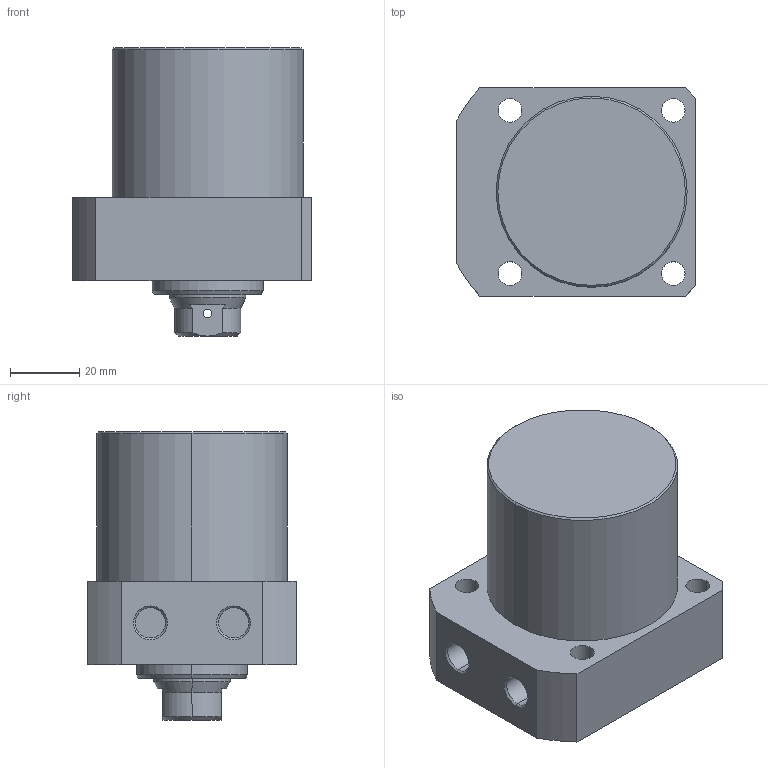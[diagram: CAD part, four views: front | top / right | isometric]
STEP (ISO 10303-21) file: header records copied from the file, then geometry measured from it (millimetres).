
FILE_DESCRIPTION (( 'STEP AP203' ), '1' );
FILE_NAME ('CLLR-055CB-030.STEP', '2019-12-19T07:46:21', ( '' ), ( '' ), 'SwSTEP 2.0', 'SolidWorks 2015', '' );
FILE_SCHEMA (( 'CONFIG_CONTROL_DESIGN' ));
Length unit declared in the file: millimetre
Products named in the file (1): CLLR-055CB-030
Bounding box: 69 x 60 x 83 mm (x, y, z)
Volume: 199757.8 mm3; surface area: 25656.4 mm2
Topology: 1 solids, 1 shells, 69 faces, 163 edges, 102 vertices
Faces by surface type: cylinder 33, plane 19, cone 17
Entity records: 2183 total; most frequent: CARTESIAN_POINT 453, DIRECTION 368, ORIENTED_EDGE 322, EDGE_CURVE 161, AXIS2_PLACEMENT_3D 149, VERTEX_POINT 102, EDGE_LOOP 89, CIRCLE 79
